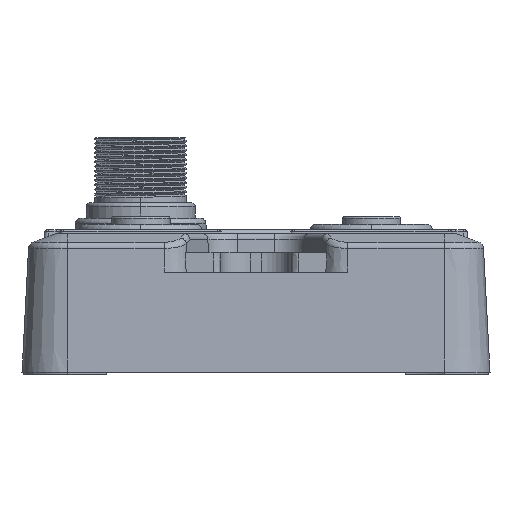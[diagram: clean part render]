
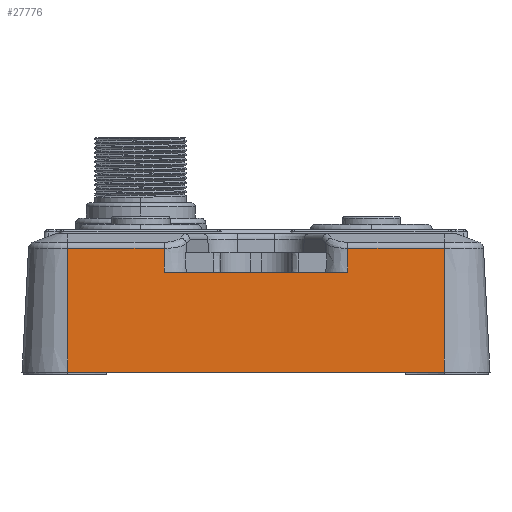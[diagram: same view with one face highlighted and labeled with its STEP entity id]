
A CAD part, front view. The second image highlights one B-rep face of the part: STEP entity #27776.
In plain terms, the highlighted planar face has unit normal (0, -0.999, 0.052).
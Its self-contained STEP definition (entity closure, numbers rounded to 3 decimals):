
#65=DIRECTION('',(1.,0.,0.));
#66=VECTOR('',#65,49.);
#67=CARTESIAN_POINT('',(-24.5,-83.943,-9.));
#68=LINE('',#67,#66);
#389=DIRECTION('',(-1.,0.,0.));
#390=VECTOR('',#389,12.549);
#391=CARTESIAN_POINT('',(-11.951,-83.1,7.087));
#392=LINE('',#391,#390);
#393=DIRECTION('',(1.,0.,0.));
#394=VECTOR('',#393,12.549);
#395=CARTESIAN_POINT('',(11.951,-83.1,7.087));
#396=LINE('',#395,#394);
#397=DIRECTION('',(0.,-0.052,-0.999));
#398=VECTOR('',#397,16.109);
#399=CARTESIAN_POINT('',(24.5,-83.1,7.087));
#400=LINE('',#399,#398);
#416=DIRECTION('',(0.,-0.052,-0.999));
#417=VECTOR('',#416,16.109);
#418=CARTESIAN_POINT('',(-24.5,-83.1,7.087));
#419=LINE('',#418,#417);
#2222=DIRECTION('',(0.,-0.052,-0.999));
#2223=VECTOR('',#2222,3.091);
#2224=CARTESIAN_POINT('',(11.951,-83.1,7.087));
#2225=LINE('',#2224,#2223);
#2235=DIRECTION('',(-1.,0.,0.));
#2236=VECTOR('',#2235,23.901);
#2237=CARTESIAN_POINT('',(11.951,-83.262,4.));
#2238=LINE('',#2237,#2236);
#2295=DIRECTION('',(0.,0.052,0.999));
#2296=VECTOR('',#2295,3.091);
#2297=CARTESIAN_POINT('',(-11.951,-83.262,4.));
#2298=LINE('',#2297,#2296);
#22250=CARTESIAN_POINT('',(-24.5,-83.943,-9.));
#22252=VERTEX_POINT('',#22250);
#22255=CARTESIAN_POINT('',(24.5,-83.943,-9.));
#22257=VERTEX_POINT('',#22255);
#22258=CARTESIAN_POINT('',(11.951,-83.262,4.));
#22259=CARTESIAN_POINT('',(-11.951,-83.262,4.));
#22260=VERTEX_POINT('',#22258);
#22261=VERTEX_POINT('',#22259);
#24740=CARTESIAN_POINT('',(-24.5,-83.1,7.087));
#24741=VERTEX_POINT('',#24740);
#24744=CARTESIAN_POINT('',(-11.951,-83.1,
7.087));
#24745=VERTEX_POINT('',#24744);
#24779=CARTESIAN_POINT('',(24.5,-83.1,7.087));
#24780=VERTEX_POINT('',#24779);
#24783=CARTESIAN_POINT('',(11.951,-83.1,
7.087));
#24784=VERTEX_POINT('',#24783);
#27755=CARTESIAN_POINT('',(-31.7,-83.,9.));
#27756=DIRECTION('',(0.,-0.999,0.052));
#27757=DIRECTION('',(1.,0.,0.));
#27758=AXIS2_PLACEMENT_3D('',#27755,#27756,#27757);
#27759=PLANE('',#27758);
#27761=ORIENTED_EDGE('',*,*,#27760,.F.);
#27763=ORIENTED_EDGE('',*,*,#27762,.F.);
#27765=ORIENTED_EDGE('',*,*,#27764,.F.);
#27767=ORIENTED_EDGE('',*,*,#27766,.F.);
#27769=ORIENTED_EDGE('',*,*,#27768,.T.);
#27770=ORIENTED_EDGE('',*,*,#27704,.T.);
#27771=ORIENTED_EDGE('',*,*,#27263,.F.);
#27773=ORIENTED_EDGE('',*,*,#27772,.F.);
#27774=EDGE_LOOP('',(#27761,#27763,#27765,#27767,#27769,#27770,#27771,#27773));
#27775=FACE_OUTER_BOUND('',#27774,.F.);
#27776=ADVANCED_FACE('',(#27775),#27759,.T.);
#27263=EDGE_CURVE('',#22252,#22257,#68,.T.);
#27704=EDGE_CURVE('',#24780,#22257,#400,.T.);
#27760=EDGE_CURVE('',#24745,#24741,#392,.T.);
#27762=EDGE_CURVE('',#22261,#24745,#2298,.T.);
#27764=EDGE_CURVE('',#22260,#22261,#2238,.T.);
#27766=EDGE_CURVE('',#24784,#22260,#2225,.T.);
#27768=EDGE_CURVE('',#24784,#24780,#396,.T.);
#27772=EDGE_CURVE('',#24741,#22252,#419,.T.);
